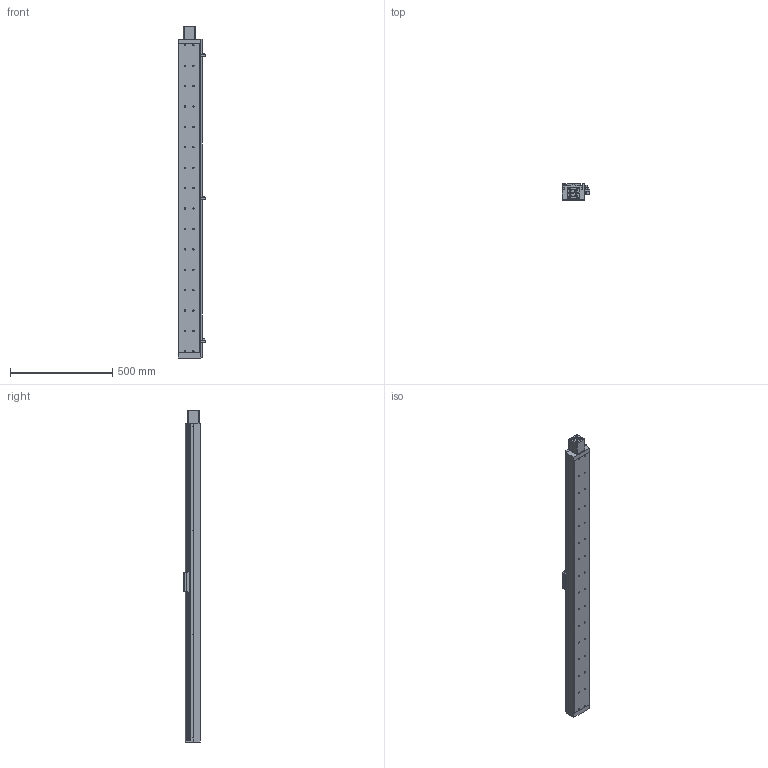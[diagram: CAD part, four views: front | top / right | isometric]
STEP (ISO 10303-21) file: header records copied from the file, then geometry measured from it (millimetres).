
FILE_DESCRIPTION((''),'2;1');
FILE_NAME('E:\libraries\UIA actuator library 2009\standard actuator\UIA110R12(15)DC\UIA110R12(15)DC-ball screw dia.20\UIA110R12(15)DC-_ _ _-R20_ _-M23 step file 20Apr16\UIA110R12(15)DC-1400-R20_ _-M23-P13-C10-S.stp','2016-04-22T13:13:52',('h029'),(''),'Autodesk Inventor 11','Autodesk Inventor 11','');
FILE_SCHEMA(('AUTOMOTIVE_DESIGN { 1 0 10303 214 1 1 1 1 }'));
Length unit declared in the file: millimetre
Products named in the file (10): UIA110R12(15)DC-1400, ball screw dia.20; body, UIA110R12(15)DC-1400,ball screw dia.20; Carriage, UIA110R12(15)DC; Sen Switch, UIA110R12(15)DC; sensor rail, UIA110R12(15)DC-1400; SOH-32C; SOH-32C-3; SOH-32C-1; SOH-32C-2; M23 motor mount
Assembly tree (9 placements, depth 3):
  UIA110R12(15)DC-1400, ball screw dia.20
    body, UIA110R12(15)DC-1400,ball screw dia.20
    Carriage, UIA110R12(15)DC
    Sen Switch, UIA110R12(15)DC
    sensor rail, UIA110R12(15)DC-1400
    SOH-32C
      SOH-32C-3
      SOH-32C-1
      SOH-32C-2
    M23 motor mount
Bounding box: 136.5 x 81 x 1627 mm (x, y, z)
Volume: 11656863.2 mm3; surface area: 857236.9 mm2
Topology: 8 solids, 8 shells, 707 faces, 1821 edges, 1195 vertices
Faces by surface type: plane 442, cylinder 163, bspline 83, cone 19
Full cylindrical faces by diameter (mm): 2.459 x4, 3.242 x4, 4 x6, 4.5 x4, 5.5 x3, 6.35 x1, 6.5 x32, 7.5 x4, 9.5 x6, 10 x2, 10.5 x32, 25 x1, 32 x3, 37 x1, 38.1 x1, 42 x1, 42.01 x1, 43.5 x1
Entity records: 21820 total; most frequent: CARTESIAN_POINT 5373, DIRECTION 3343, ORIENTED_EDGE 3094, EDGE_CURVE 1547, AXIS2_PLACEMENT_3D 1170, VERTEX_POINT 1118, EDGE_LOOP 1017, VECTOR 1003
